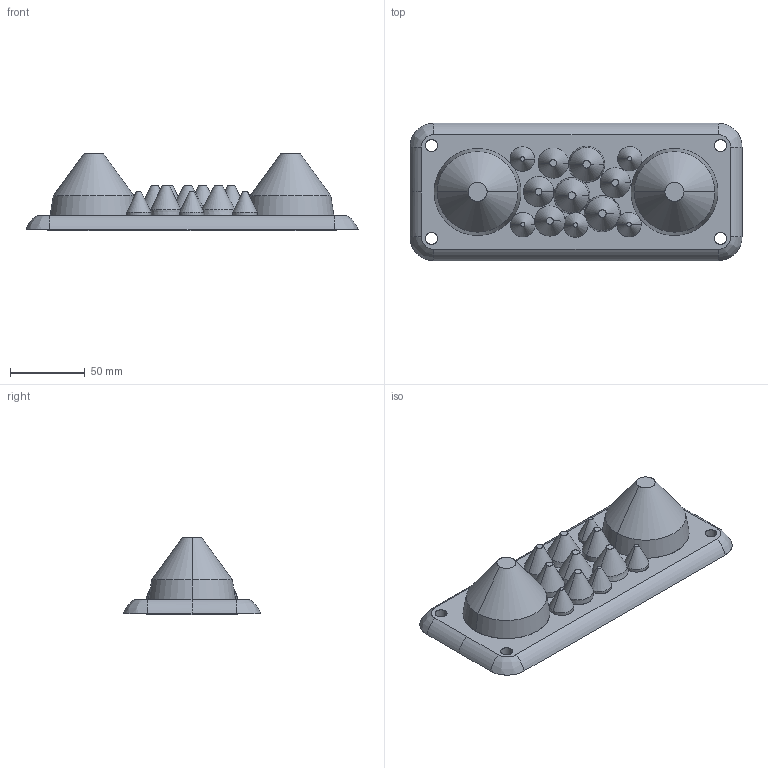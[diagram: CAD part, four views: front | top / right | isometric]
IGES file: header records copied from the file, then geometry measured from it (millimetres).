
Start section: SolidWorks IGES file using analytic representation for surfaces
Global section: file name: C:\Solidworks\omat tuotteet\Space charge models\Multigate\ip54 LMC\IGES\104338.IGS; native system: SolidWorks 2012; preprocessor: SolidWorks 2012; author: joni.lehtonen; date: 121211.154047; units: millimetre
Bounding box: 221.74 x 91.74 x 51.5 mm (x, y, z)
Surface area: 77633.4 mm2 (no closed solid volume)
Topology: 0 solids, 0 shells, 236 faces, 4275 edges, 4275 vertices
Faces by surface type: revolution 134, bspline 102
